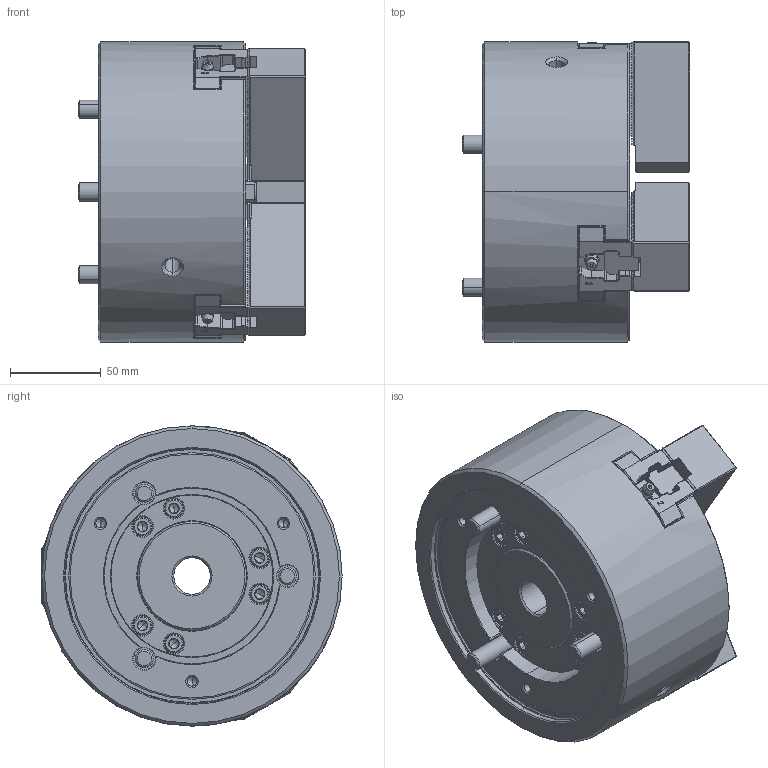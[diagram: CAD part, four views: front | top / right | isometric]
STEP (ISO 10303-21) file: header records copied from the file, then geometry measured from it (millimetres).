
FILE_DESCRIPTION (( 'STEP AP203' ), '1' );
FILE_NAME ('B-206M_HCL.STEP', '2025-09-05T09:49:55', ( '' ), ( '' ), 'SwSTEP 2.0', 'SolidWorks 2022', '' );
FILE_SCHEMA (( 'CONFIG_CONTROL_DESIGN' ));
Length unit declared in the file: millimetre
Products named in the file (9): Copy of DEV-B-206M-Bアナツキ M10x80^DEV-B-206M-クミタテ; Copy of DEV-B-206M-Bアナツキ M10x25^DEV-B-206M-クミタテ; Copy of DEV-B-206M-Tナット^DEV-B-206M-クミタテ; B-206M_HCL; Copy of DEV-B-206M-カバー^DEV-B-206M-クミタテ; Part10^DEV-B-206M-クミタテ; Copy of DEV-B-206M-ソフトジョー^DEV-B-206M-クミタテ_デフォルト; Copy of DEV-B-206M-Bアナツキボタン M5x10^DEV-B-206M-クミタテ; Copy of DEV-B-206M-ドローナット^DEV-B-206M-クミタテ_ねじ切りなし
Assembly tree (21 placements, depth 2):
  B-206M_HCL
    Copy of DEV-B-206M-Bアナツキ M10x80^DEV-B-206M-クミタテ  x3
    Copy of DEV-B-206M-Bアナツキ M10x25^DEV-B-206M-クミタテ  x6
    Copy of DEV-B-206M-Bアナツキボタン M5x10^DEV-B-206M-クミタテ  x3
    Copy of DEV-B-206M-ドローナット^DEV-B-206M-クミタテ_ねじ切りなし
    Copy of DEV-B-206M-カバー^DEV-B-206M-クミタテ
    Copy of DEV-B-206M-ソフトジョー^DEV-B-206M-クミタテ_デフォルト  x3
    Copy of DEV-B-206M-Tナット^DEV-B-206M-クミタテ  x3
    Part10^DEV-B-206M-クミタテ
Bounding box: 125.2 x 165.02 x 165 mm (x, y, z)
Volume: 1655597.4 mm3; surface area: 232972.7 mm2
Topology: 21 solids, 27 shells, 3559 faces, 9843 edges, 6385 vertices
Faces by surface type: plane 2134, cylinder 842, cone 368, bspline 142, torus 66, sphere 7
Entity records: 83965 total; most frequent: CARTESIAN_POINT 22525, ORIENTED_EDGE 13324, DIRECTION 11406, EDGE_CURVE 6662, VECTOR 4672, LINE 4672, VERTEX_POINT 4332, AXIS2_PLACEMENT_3D 3367
